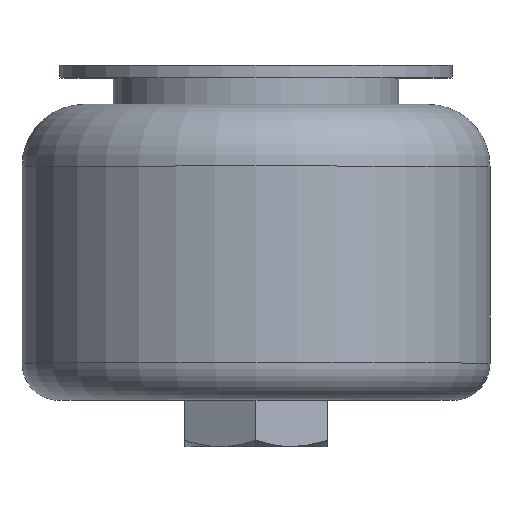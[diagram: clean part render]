
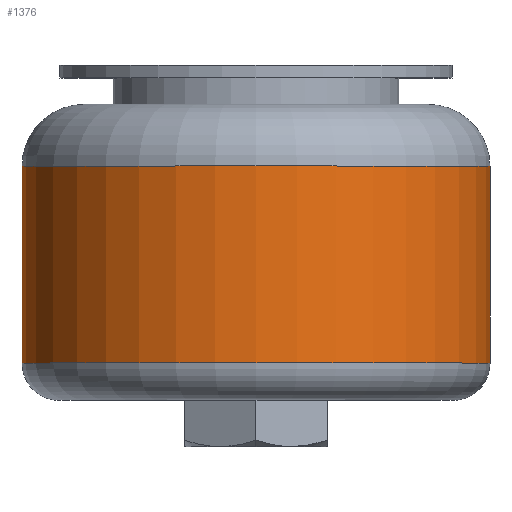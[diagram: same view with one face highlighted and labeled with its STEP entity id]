
A CAD part, top view. The second image highlights one B-rep face of the part: STEP entity #1376.
In plain terms, the highlighted cylindrical face has radius 75.5 mm (diameter 151 mm), a partial arc.
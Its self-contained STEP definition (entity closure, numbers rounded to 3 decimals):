
#779=DIRECTION('',(0.,1.,0.));
#780=VECTOR('',#779,63.5);
#781=CARTESIAN_POINT('',(75.5,12.,0.));
#782=LINE('',#781,#780);
#783=DIRECTION('',(0.,1.,0.));
#784=VECTOR('',#783,63.5);
#785=CARTESIAN_POINT('',(-75.5,12.,0.));
#786=LINE('',#785,#784);
#792=CARTESIAN_POINT('',(0.,12.,0.));
#793=DIRECTION('',(0.,-1.,0.));
#794=DIRECTION('',(1.,0.,0.));
#795=AXIS2_PLACEMENT_3D('',#792,#793,#794);
#797=CARTESIAN_POINT('',(0.,75.5,0.));
#798=DIRECTION('',(0.,-1.,0.));
#799=DIRECTION('',(1.,0.,0.));
#800=AXIS2_PLACEMENT_3D('',#797,#798,#799);
#881=CARTESIAN_POINT('',(75.5,12.,0.));
#882=CARTESIAN_POINT('',(75.5,75.5,0.));
#883=VERTEX_POINT('',#881);
#884=VERTEX_POINT('',#882);
#917=CARTESIAN_POINT('',(-75.5,12.,0.));
#918=CARTESIAN_POINT('',(-75.5,75.5,0.));
#919=VERTEX_POINT('',#917);
#920=VERTEX_POINT('',#918);
#1364=CARTESIAN_POINT('',(0.,109.2,0.));
#1365=DIRECTION('',(0.,-1.,0.));
#1366=DIRECTION('',(-1.,0.,0.));
#1367=AXIS2_PLACEMENT_3D('',#1364,#1365,#1366);
#1368=CYLINDRICAL_SURFACE('',#1367,75.5);
#1369=ORIENTED_EDGE('',*,*,#1354,.F.);
#1370=ORIENTED_EDGE('',*,*,#1331,.T.);
#1371=ORIENTED_EDGE('',*,*,#1358,.T.);
#1373=ORIENTED_EDGE('',*,*,#1372,.F.);
#1374=EDGE_LOOP('',(#1369,#1370,#1371,#1373));
#1375=FACE_OUTER_BOUND('',#1374,.F.);
#1376=ADVANCED_FACE('',(#1375),#1368,.T.);
#796=CIRCLE('',#795,75.5);
#801=CIRCLE('',#800,75.5);
#1331=EDGE_CURVE('',#883,#919,#796,.T.);
#1354=EDGE_CURVE('',#883,#884,#782,.T.);
#1358=EDGE_CURVE('',#919,#920,#786,.T.);
#1372=EDGE_CURVE('',#884,#920,#801,.T.);
